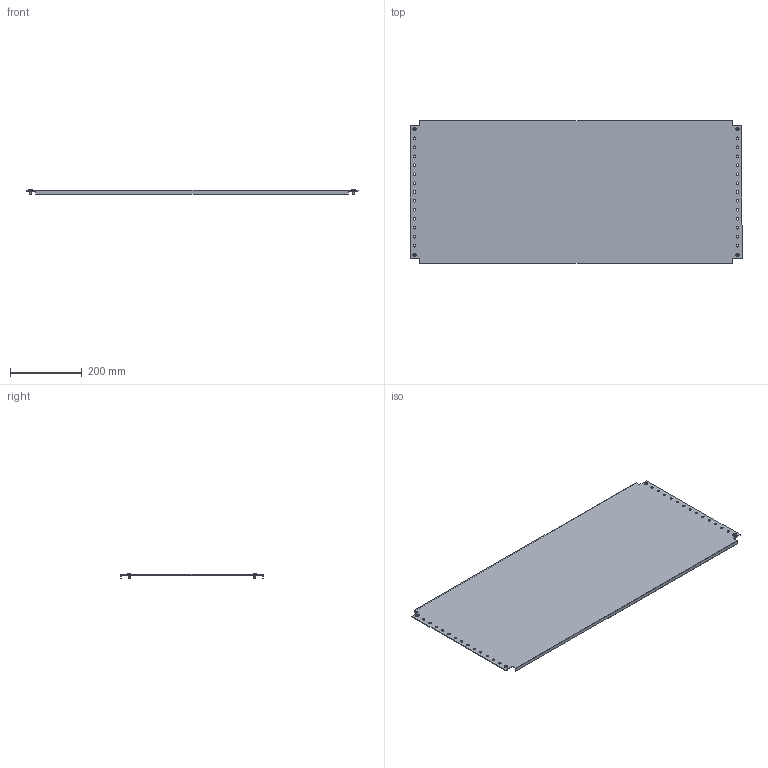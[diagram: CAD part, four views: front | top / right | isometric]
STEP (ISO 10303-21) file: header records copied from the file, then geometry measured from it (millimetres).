
FILE_DESCRIPTION (( 'STEP AP203' ), '1' );
FILE_NAME ('R6MPP041000.STEP', '2025-05-16T08:14:58', ( '' ), ( '' ), 'SwSTEP 2.0', 'SolidWorks 2022', '' );
FILE_SCHEMA (( 'CONFIG_CONTROL_DESIGN' ));
Length unit declared in the file: millimetre
Products named in the file (3): M5x12 DIN 7500 C Torx Zinc_stright; R6MPP041000; RB.3313.00.00.0 simple_-14
Assembly tree (5 placements, depth 2):
  R6MPP041000
    RB.3313.00.00.0 simple_-14
    M5x12 DIN 7500 C Torx Zinc_stright  x4
Bounding box: 925 x 398 x 15.56 mm (x, y, z)
Volume: 685352.2 mm3; surface area: 767262.7 mm2
Topology: 5 solids, 5 shells, 182 faces, 452 edges, 276 vertices
Faces by surface type: cylinder 76, plane 58, cone 16, torus 16, bspline 8, sphere 8
Entity records: 4239 total; most frequent: CARTESIAN_POINT 825, DIRECTION 670, ORIENTED_EDGE 600, EDGE_CURVE 300, AXIS2_PLACEMENT_3D 264, VERTEX_POINT 195, EDGE_LOOP 171, CIRCLE 148
